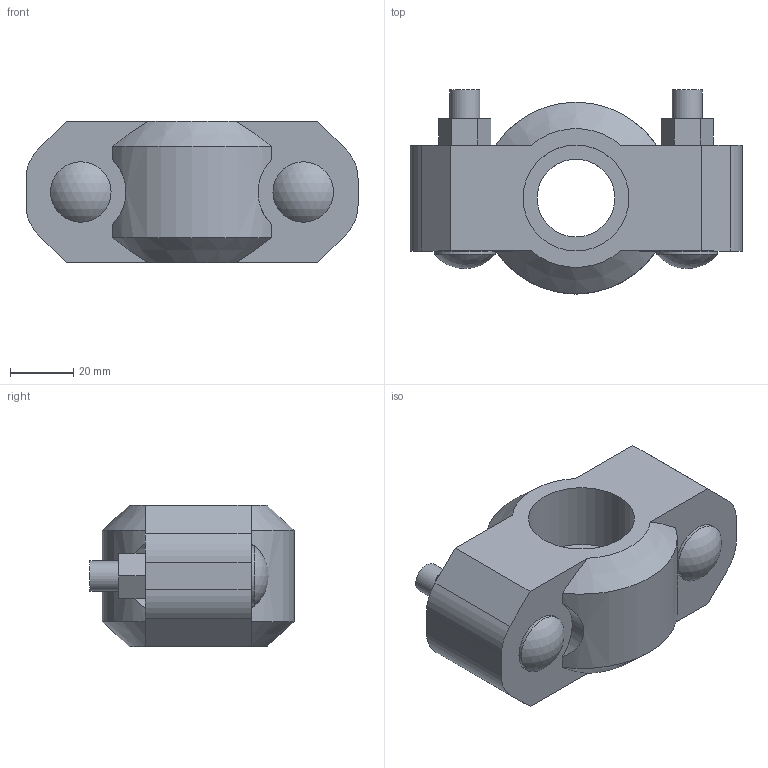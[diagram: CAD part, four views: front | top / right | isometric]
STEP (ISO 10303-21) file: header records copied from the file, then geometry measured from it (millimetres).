
FILE_DESCRIPTION(/* description */ ('Victaulic Standard Flexible Coupling Style 77','CAx-IF Rec.Pracs.---Representation and Presentation of Product Manufacturing Information (PMI)---4.0---2014-10-13'),/* implementation_level */ '2;1');
FILE_NAME(/* name */ 'C:\Users\Vjadhav\Desktop\CAD for Inventor\1\Coupling bolt thickness\77\Victaulic_IPS_Coupling Flexible_Style 77 (OGS)\Victaulic_IPS_Coupling Flexible_Style 77 (OGS)_1 (25).stp',/* time_stamp */ '2022-03-24T18:19:40+06:00',/* author */ ('CONSTRUCTION PIPING SERVICES'),/* organization */ ('Victaulic'),/* preprocessor_version */ 'ST-DEVELOPER v17.2',/* originating_system */ 'Autodesk Inventor 2019',/* authorisation */ '');
FILE_SCHEMA (('AP242_MANAGED_MODEL_BASED_3D_ENGINEERING_MIM_LF { 1 0 10303 442 1 1 4 }'));
Length unit declared in the file: inch
Products named in the file (1): 077-01.0
Bounding box: 104.65 x 64.33 x 44.45 mm (x, y, z)
Volume: 145017.3 mm3; surface area: 29300.4 mm2
Topology: 1 solids, 3 shells, 61 faces, 142 edges, 95 vertices
Faces by surface type: plane 34, cylinder 21, cone 4, sphere 2
Full cylindrical faces by diameter (mm): 9.525 x4, 11.43 x2, 19.05 x2, 24.511 x1, 33.401 x2
Entity records: 2011 total; most frequent: CARTESIAN_POINT 384, DIRECTION 323, ORIENTED_EDGE 284, EDGE_CURVE 142, AXIS2_PLACEMENT_3D 118, VERTEX_POINT 95, LINE 87, VECTOR 87
